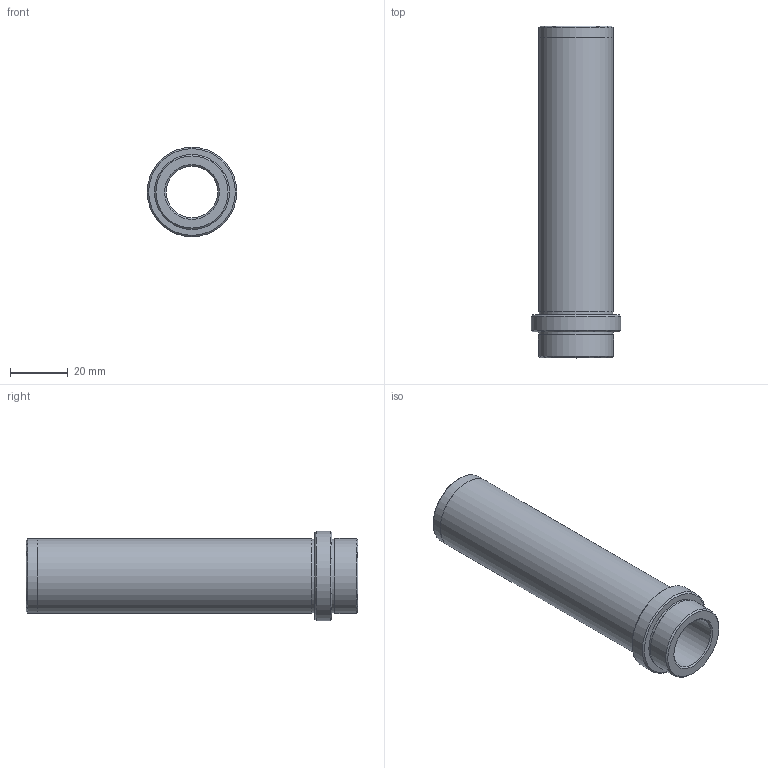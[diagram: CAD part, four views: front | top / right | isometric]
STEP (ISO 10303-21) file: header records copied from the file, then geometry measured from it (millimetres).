
FILE_DESCRIPTION( ( 'STEP AP203' ), '1' );
FILE_NAME( 'D:/Cuma/24 03 2009/D21/D21_18X106.step', '2002-12-31T22:05:25', ( ' ' ), ( ' ' ), 'XStep 1.0', ' ', ' ' );
FILE_SCHEMA( ( 'CONFIG_CONTROL_DESIGN' ) );
Length unit declared in the file: metre
Products named in the file (1): 1
Bounding box: 31 x 115 x 31 mm (x, y, z)
Volume: 33020.6 mm3; surface area: 16929.2 mm2
Topology: 1 solids, 1 shells, 20 faces, 33 edges, 20 vertices
Faces by surface type: cylinder 7, plane 7, cone 6
Full cylindrical faces by diameter (mm): 18 x1, 25.5 x2, 25.9 x1, 26 x2, 31 x1
Entity records: 453 total; most frequent: DIRECTION 82, CARTESIAN_POINT 61, AXIS2_PLACEMENT_3D 41, EDGE_LOOP 40, ORIENTED_EDGE 40, FACE_OUTER_BOUND 27, ADVANCED_FACE 20, EDGE_CURVE 20
